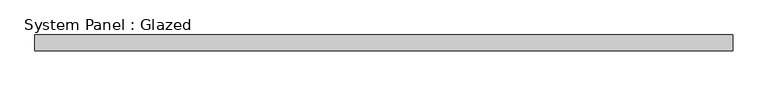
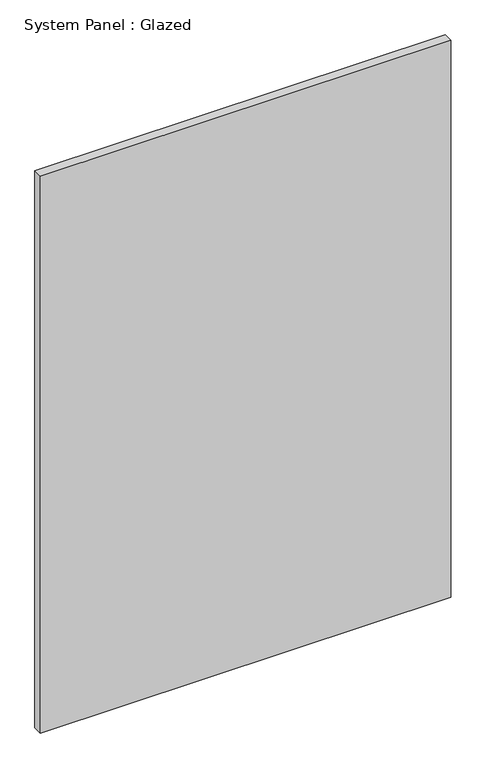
"""IFC4 building model written with IfcOpenShell, lengths in millimetres: plate geometry, System Panel : Glazed."""

from ifc_helpers import new_model, si_unit, origin, origin_with_axes, place, context, project, spatial, polyline, outline, extrude, source, transform, mapped, element, save


def system_panel_glazed_b90b4a46(model_context):
    return source(origin(), model_context, "Body", "SweptSolid", [
        extrude(outline(polyline([(558.8, -44.45), (-558.8, -44.45), (-558.8, -19.05), (558.8, -19.05), (558.8, -44.45)])), origin_with_axes(), (0.0, 0.0, 1.0), 1602.9522187),
    ])


if __name__ == "__main__":
    model = new_model("IFC4")
    model_context = context("Model", 3, world=origin())
    ifc_project = project(units=[si_unit("LENGTHUNIT", "METRE", prefix="MILLI")], contexts=[model_context])
    site = spatial("IfcSite", under=ifc_project)
    building = spatial("IfcBuilding", under=site)
    placement = place(None, origin())
    system_panel_glazed_shape = system_panel_glazed_b90b4a46(model_context)
    element("IfcPlate", 1, ObjectType="System Panel : Glazed", at=placement, inside=building, context=model_context, shape_type="MappedRepresentation", body=[
        mapped(system_panel_glazed_shape, transform((0.0, 0.0, 0.0), x_axis=(1.0, 0.0, 0.0), y_axis=(0.0, 1.0, 0.0), z_axis=(0.0, 0.0, 1.0))),
    ])
    save(model, "model.ifc")
